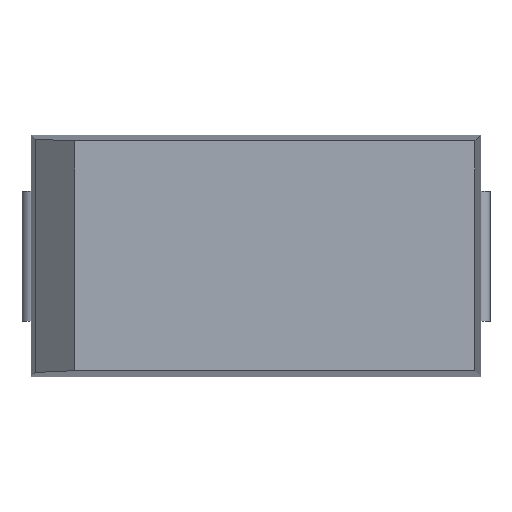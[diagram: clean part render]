
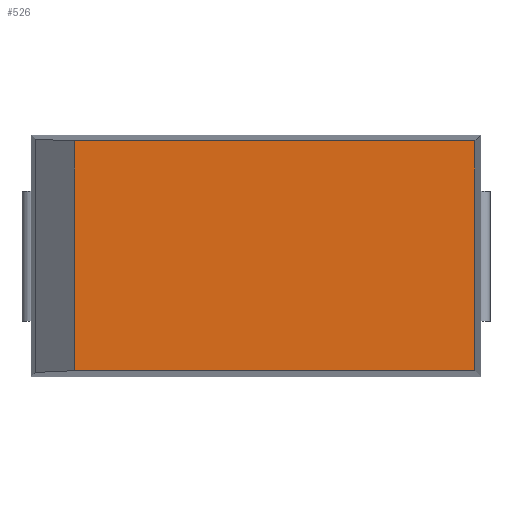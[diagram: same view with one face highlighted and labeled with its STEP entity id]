
A CAD part, top view. The second image highlights one B-rep face of the part: STEP entity #526.
In plain terms, the highlighted planar face has unit normal (0, 0, 1).
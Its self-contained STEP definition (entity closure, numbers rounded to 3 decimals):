
#63 = PLANE('',#64);
#64 = AXIS2_PLACEMENT_3D('',#65,#66,#67);
#65 = CARTESIAN_POINT('',(-2.42,-1.269,1.932));
#66 = DIRECTION('',(0.,0.999,-0.046));
#67 = DIRECTION('',(-1.,-0.,-0.));
#119 = PLANE('',#120);
#120 = AXIS2_PLACEMENT_3D('',#121,#122,#123);
#121 = CARTESIAN_POINT('',(-2.42,1.269,1.932));
#122 = DIRECTION('',(0.,0.999,0.046));
#123 = DIRECTION('',(-1.,0.,0.));
#145 = PLANE('',#146);
#146 = AXIS2_PLACEMENT_3D('',#147,#148,#149);
#147 = CARTESIAN_POINT('',(-2.165,-1.237,2.419));
#148 = DIRECTION('',(0.691,0.,-0.723));
#149 = DIRECTION('',(0.,1.,0.));
#190 = VERTEX_POINT('',#191);
#191 = CARTESIAN_POINT('',(2.357,-1.237,2.62));
#205 = PLANE('',#206);
#206 = AXIS2_PLACEMENT_3D('',#207,#208,#209);
#207 = CARTESIAN_POINT('',(2.389,-1.3,1.932));
#208 = DIRECTION('',(0.999,0.,0.046));
#209 = DIRECTION('',(0.,1.,0.));
#217 = EDGE_CURVE('',#218,#190,#220,.T.);
#218 = VERTEX_POINT('',#219);
#219 = CARTESIAN_POINT('',(-1.954,-1.237,2.62));
#220 = SURFACE_CURVE('',#221,(#225,#232),.PCURVE_S1.);
#221 = LINE('',#222,#223);
#222 = CARTESIAN_POINT('',(-2.42,-1.237,2.62));
#223 = VECTOR('',#224,1.);
#224 = DIRECTION('',(1.,0.,0.));
#225 = PCURVE('',#63,#226);
#226 = DEFINITIONAL_REPRESENTATION('',(#227),#231);
#227 = LINE('',#228,#229);
#228 = CARTESIAN_POINT('',(-0.,0.689));
#229 = VECTOR('',#230,1.);
#230 = DIRECTION('',(-1.,0.));
#231 = ( GEOMETRIC_REPRESENTATION_CONTEXT(2) 
PARAMETRIC_REPRESENTATION_CONTEXT() REPRESENTATION_CONTEXT('2D SPACE',''
  ) );
#232 = PCURVE('',#233,#238);
#233 = PLANE('',#234);
#234 = AXIS2_PLACEMENT_3D('',#235,#236,#237);
#235 = CARTESIAN_POINT('',(-2.42,-1.3,2.62));
#236 = DIRECTION('',(0.,0.,1.));
#237 = DIRECTION('',(1.,0.,0.));
#238 = DEFINITIONAL_REPRESENTATION('',(#239),#243);
#239 = LINE('',#240,#241);
#240 = CARTESIAN_POINT('',(0.,0.063));
#241 = VECTOR('',#242,1.);
#242 = DIRECTION('',(1.,0.));
#243 = ( GEOMETRIC_REPRESENTATION_CONTEXT(2) 
PARAMETRIC_REPRESENTATION_CONTEXT() REPRESENTATION_CONTEXT('2D SPACE',''
  ) );
#272 = VERTEX_POINT('',#273);
#273 = CARTESIAN_POINT('',(-1.954,1.237,2.62));
#294 = EDGE_CURVE('',#218,#272,#295,.T.);
#295 = SURFACE_CURVE('',#296,(#300,#307),.PCURVE_S1.);
#296 = LINE('',#297,#298);
#297 = CARTESIAN_POINT('',(-1.954,-1.237,2.62));
#298 = VECTOR('',#299,1.);
#299 = DIRECTION('',(0.,1.,0.));
#300 = PCURVE('',#145,#301);
#301 = DEFINITIONAL_REPRESENTATION('',(#302),#306);
#302 = LINE('',#303,#304);
#303 = CARTESIAN_POINT('',(0.,0.292));
#304 = VECTOR('',#305,1.);
#305 = DIRECTION('',(1.,0.));
#306 = ( GEOMETRIC_REPRESENTATION_CONTEXT(2) 
PARAMETRIC_REPRESENTATION_CONTEXT() REPRESENTATION_CONTEXT('2D SPACE',''
  ) );
#307 = PCURVE('',#233,#308);
#308 = DEFINITIONAL_REPRESENTATION('',(#309),#313);
#309 = LINE('',#310,#311);
#310 = CARTESIAN_POINT('',(0.466,0.063));
#311 = VECTOR('',#312,1.);
#312 = DIRECTION('',(0.,1.));
#313 = ( GEOMETRIC_REPRESENTATION_CONTEXT(2) 
PARAMETRIC_REPRESENTATION_CONTEXT() REPRESENTATION_CONTEXT('2D SPACE',''
  ) );
#424 = VERTEX_POINT('',#425);
#425 = CARTESIAN_POINT('',(2.357,1.237,2.62));
#446 = EDGE_CURVE('',#272,#424,#447,.T.);
#447 = SURFACE_CURVE('',#448,(#452,#459),.PCURVE_S1.);
#448 = LINE('',#449,#450);
#449 = CARTESIAN_POINT('',(-2.42,1.237,2.62));
#450 = VECTOR('',#451,1.);
#451 = DIRECTION('',(1.,0.,0.));
#452 = PCURVE('',#119,#453);
#453 = DEFINITIONAL_REPRESENTATION('',(#454),#458);
#454 = LINE('',#455,#456);
#455 = CARTESIAN_POINT('',(-0.,0.689));
#456 = VECTOR('',#457,1.);
#457 = DIRECTION('',(-1.,0.));
#458 = ( GEOMETRIC_REPRESENTATION_CONTEXT(2) 
PARAMETRIC_REPRESENTATION_CONTEXT() REPRESENTATION_CONTEXT('2D SPACE',''
  ) );
#459 = PCURVE('',#233,#460);
#460 = DEFINITIONAL_REPRESENTATION('',(#461),#465);
#461 = LINE('',#462,#463);
#462 = CARTESIAN_POINT('',(0.,2.537));
#463 = VECTOR('',#464,1.);
#464 = DIRECTION('',(1.,0.));
#465 = ( GEOMETRIC_REPRESENTATION_CONTEXT(2) 
PARAMETRIC_REPRESENTATION_CONTEXT() REPRESENTATION_CONTEXT('2D SPACE',''
  ) );
#526 = ADVANCED_FACE('',(#527),#233,.T.);
#527 = FACE_BOUND('',#528,.T.);
#528 = EDGE_LOOP('',(#529,#530,#551,#552));
#529 = ORIENTED_EDGE('',*,*,#217,.T.);
#530 = ORIENTED_EDGE('',*,*,#531,.T.);
#531 = EDGE_CURVE('',#190,#424,#532,.T.);
#532 = SURFACE_CURVE('',#533,(#537,#544),.PCURVE_S1.);
#533 = LINE('',#534,#535);
#534 = CARTESIAN_POINT('',(2.357,-1.3,2.62));
#535 = VECTOR('',#536,1.);
#536 = DIRECTION('',(0.,1.,0.));
#537 = PCURVE('',#233,#538);
#538 = DEFINITIONAL_REPRESENTATION('',(#539),#543);
#539 = LINE('',#540,#541);
#540 = CARTESIAN_POINT('',(4.777,0.));
#541 = VECTOR('',#542,1.);
#542 = DIRECTION('',(0.,1.));
#543 = ( GEOMETRIC_REPRESENTATION_CONTEXT(2) 
PARAMETRIC_REPRESENTATION_CONTEXT() REPRESENTATION_CONTEXT('2D SPACE',''
  ) );
#544 = PCURVE('',#205,#545);
#545 = DEFINITIONAL_REPRESENTATION('',(#546),#550);
#546 = LINE('',#547,#548);
#547 = CARTESIAN_POINT('',(0.,0.689));
#548 = VECTOR('',#549,1.);
#549 = DIRECTION('',(1.,0.));
#550 = ( GEOMETRIC_REPRESENTATION_CONTEXT(2) 
PARAMETRIC_REPRESENTATION_CONTEXT() REPRESENTATION_CONTEXT('2D SPACE',''
  ) );
#551 = ORIENTED_EDGE('',*,*,#446,.F.);
#552 = ORIENTED_EDGE('',*,*,#294,.F.);
